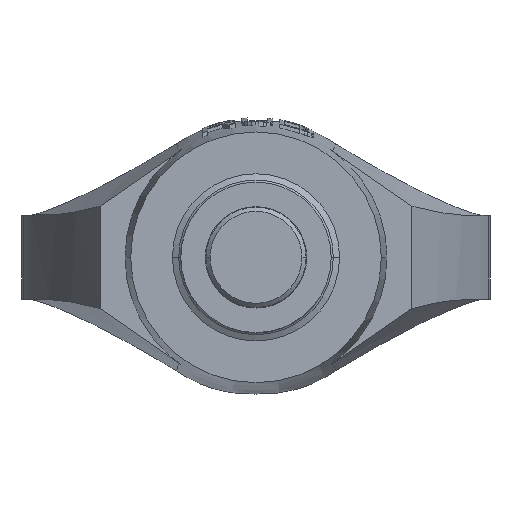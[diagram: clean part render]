
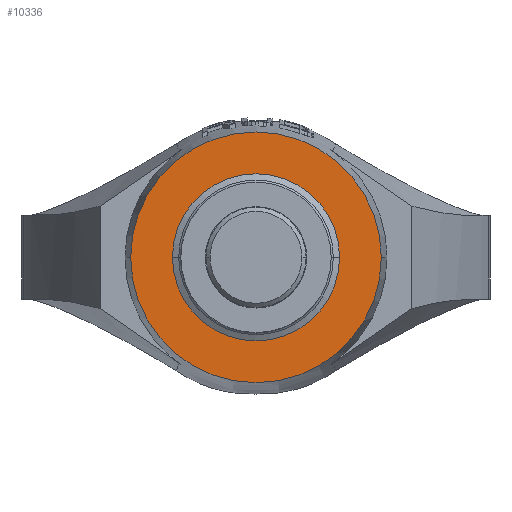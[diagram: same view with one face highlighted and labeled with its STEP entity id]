
A CAD part, front view. The second image highlights one B-rep face of the part: STEP entity #10336.
In plain terms, the highlighted planar face has unit normal (0, -1, 0).
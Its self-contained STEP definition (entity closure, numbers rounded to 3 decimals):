
#2=CARTESIAN_POINT('',(0.,-27.,0.));
#3=DIRECTION('',(0.,-1.,0.));
#4=DIRECTION('',(-1.,0.,0.));
#5=AXIS2_PLACEMENT_3D('',#2,#3,#4);
#7=CARTESIAN_POINT('',(0.,-27.,0.));
#8=DIRECTION('',(0.,-1.,0.));
#9=DIRECTION('',(1.,0.,0.));
#10=AXIS2_PLACEMENT_3D('',#7,#8,#9);
#61=CARTESIAN_POINT('',(0.,-27.,0.));
#62=DIRECTION('',(0.,-1.,0.));
#63=DIRECTION('',(1.,0.,0.));
#64=AXIS2_PLACEMENT_3D('',#61,#62,#63);
#841=CARTESIAN_POINT('',(0.,-27.,0.));
#842=DIRECTION('',(0.,1.,0.));
#843=DIRECTION('',(1.,0.,0.));
#844=AXIS2_PLACEMENT_3D('',#841,#842,#843);
#8041=CARTESIAN_POINT('',(15.,-27.,0.));
#8042=CARTESIAN_POINT('',(-15.,-27.,0.));
#8043=VERTEX_POINT('',#8041);
#8044=VERTEX_POINT('',#8042);
#8071=CARTESIAN_POINT('',(-10.,-27.,0.));
#8072=CARTESIAN_POINT('',(10.,-27.,0.));
#8073=VERTEX_POINT('',#8071);
#8074=VERTEX_POINT('',#8072);
#10319=CARTESIAN_POINT('',(0.,-27.,0.));
#10320=DIRECTION('',(0.,-1.,0.));
#10321=DIRECTION('',(-1.,0.,0.));
#10322=AXIS2_PLACEMENT_3D('',#10319,#10320,#10321);
#10323=PLANE('',#10322);
#10325=ORIENTED_EDGE('',*,*,#10324,.F.);
#10327=ORIENTED_EDGE('',*,*,#10326,.T.);
#10328=EDGE_LOOP('',(#10325,#10327));
#10329=FACE_OUTER_BOUND('',#10328,.F.);
#10331=ORIENTED_EDGE('',*,*,#10330,.T.);
#10333=ORIENTED_EDGE('',*,*,#10332,.T.);
#10334=EDGE_LOOP('',(#10331,#10333));
#10335=FACE_BOUND('',#10334,.F.);
#10336=ADVANCED_FACE('',(#10329,#10335),#10323,.T.);
#6=CIRCLE('',#5,10.);
#11=CIRCLE('',#10,10.);
#65=CIRCLE('',#64,15.);
#845=CIRCLE('',#844,15.);
#10324=EDGE_CURVE('',#8043,#8044,#65,.T.);
#10326=EDGE_CURVE('',#8043,#8044,#845,.T.);
#10330=EDGE_CURVE('',#8073,#8074,#6,.T.);
#10332=EDGE_CURVE('',#8074,#8073,#11,.T.);
